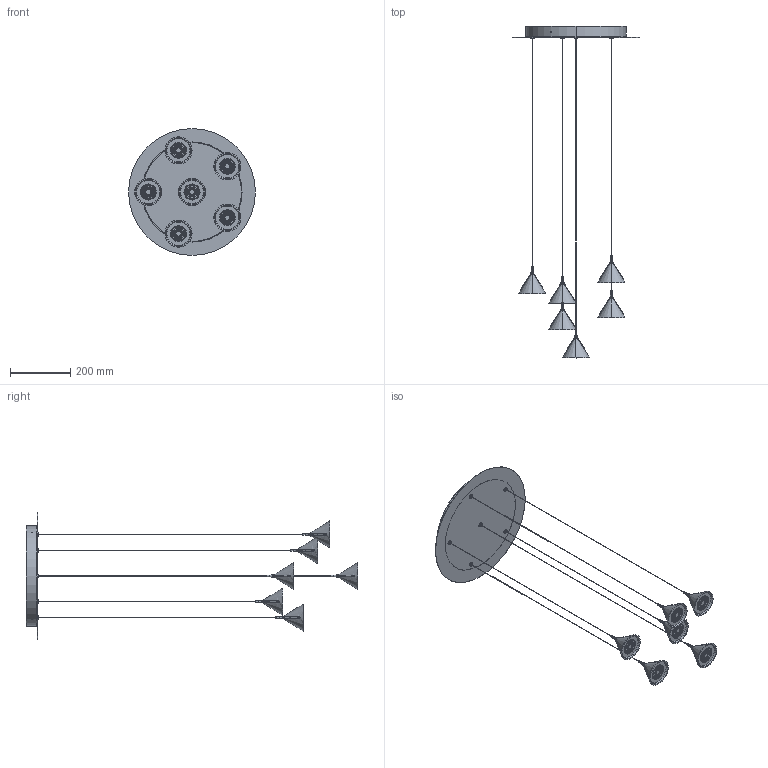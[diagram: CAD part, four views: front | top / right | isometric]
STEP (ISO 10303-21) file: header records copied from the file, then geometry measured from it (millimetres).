
FILE_DESCRIPTION (( 'STEP AP203' ), '1' );
FILE_NAME ('SPJM06X-PER 3D.STEP', '2025-06-30T07:20:57', ( '' ), ( '' ), 'SwSTEP 2.0', 'SolidWorks 2024', '' );
FILE_SCHEMA (( 'CONFIG_CONTROL_DESIGN' ));
Length unit declared in the file: millimetre
Products named in the file (22): PENDJEWEMO32XXXX-PER 3D; WSCM2C0205-0100-00; WSCM2A0067-0700-00; CAVOJEWELM02MTY; WSMCROB10--14-0141_WSMCROB10--14-0141; SPJM06X-PER 3D; WSR1TLL01CRCEW38L2; WSCP2E0002-1404-00; WSCM2F0028-0100-00_Default<按加工>; WSM2G1522-FR------; ASSIEME HOLDER+LENTE LEDLINK; WSASS-000000059-00-PER 3D
Assembly tree (46 placements, depth 4):
  SPJM06X-PER 3D
    WSASS-000000059-00-PER 3D
      WSCM2F0028-0100-00_Default<按加工>
      WSCM2C0205-0100-00
      WSM2G1522-FR------  x6
      WSMCROB10--14-0141_WSMCROB10--14-0141  x6
    PENDJEWEMO32XXXX-PER 3D
      WSCM2A0067-0700-00
      WSCP2E0002-1404-00
      ASSIEME HOLDER+LENTE LEDLINK
        WSR1TLL01CRCEW38L2
      CAVOJEWELM02MTY
    PENDJEWEMO32XXXX-PER 3D
      WSCM2A0067-0700-00
      WSCP2E0002-1404-00
      ASSIEME HOLDER+LENTE LEDLINK
        WSR1TLL01CRCEW38L2
      CAVOJEWELM02MTY
    PENDJEWEMO32XXXX-PER 3D
      WSCM2A0067-0700-00
      WSCP2E0002-1404-00
      ASSIEME HOLDER+LENTE LEDLINK
        WSR1TLL01CRCEW38L2
      CAVOJEWELM02MTY
    PENDJEWEMO32XXXX-PER 3D
      WSCM2A0067-0700-00
      WSCP2E0002-1404-00
      ASSIEME HOLDER+LENTE LEDLINK
        WSR1TLL01CRCEW38L2
      CAVOJEWELM02MTY
    PENDJEWEMO32XXXX-PER 3D
      WSCM2A0067-0700-00
      WSCP2E0002-1404-00
      ASSIEME HOLDER+LENTE LEDLINK
        WSR1TLL01CRCEW38L2
      CAVOJEWELM02MTY
    PENDJEWEMO32XXXX-PER 3D
      WSCM2A0067-0700-00
      WSCP2E0002-1404-00
      ASSIEME HOLDER+LENTE LEDLINK
        WSR1TLL01CRCEW38L2
      CAVOJEWELM02MTY
Bounding box: 420 x 1099.85 x 420 mm (x, y, z)
Volume: 930705.1 mm3; surface area: 755201.5 mm2
Topology: 38 solids, 38 shells, 4953 faces, 12620 edges, 7468 vertices
Faces by surface type: cylinder 2328, bspline 1470, plane 635, cone 432, sphere 60, torus 28
Entity records: 50535 total; most frequent: CARTESIAN_POINT 28768, ORIENTED_EDGE 4440, DIRECTION 3098, EDGE_CURVE 2220, VERTEX_POINT 1360, AXIS2_PLACEMENT_3D 1305, B_SPLINE_CURVE_WITH_KNOTS 1137, EDGE_LOOP 976
